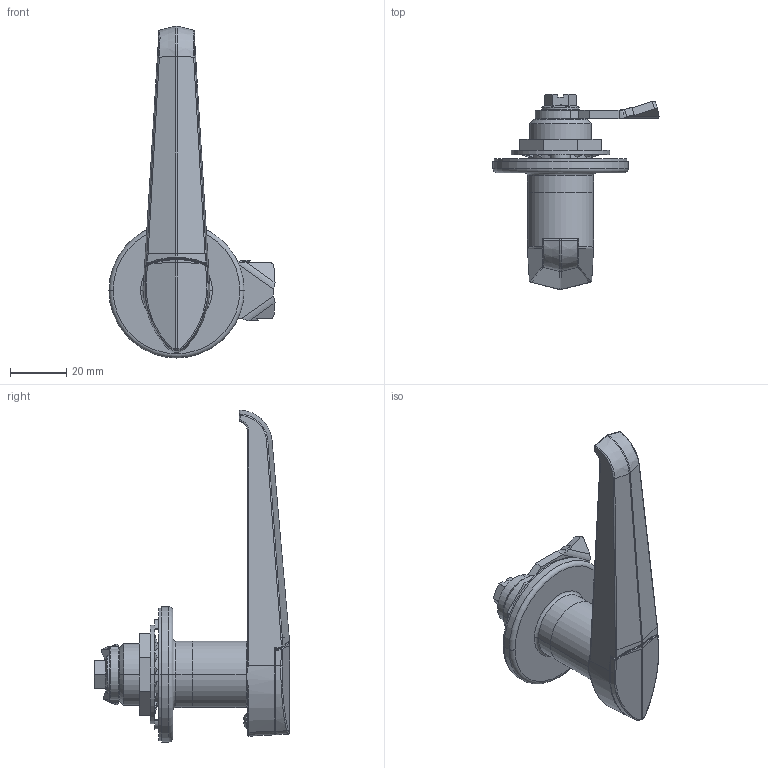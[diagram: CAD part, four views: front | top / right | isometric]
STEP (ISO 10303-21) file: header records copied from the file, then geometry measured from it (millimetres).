
FILE_DESCRIPTION((''),'2;1');
FILE_NAME('3SJ_MS317_0003_ASM','2016-07-13T',('Administrator'),(''),'PRO/ENGINEER BY PARAMETRIC TECHNOLOGY CORPORATION, 2009060','PRO/ENGINEER BY PARAMETRIC TECHNOLOGY CORPORATION, 2009060','');
FILE_SCHEMA(('CONFIG_CONTROL_DESIGN'));
Length unit declared in the file: millimetre
Products named in the file (19): 8SJ_MS317_0020; 8SJ_MS317_0011; 8SJ_MS307_0712; D3_GB_T_95-2002; M3X8_GB_T_818-2000; D17X2_65_GB_T_3452_1-2005; 8SJ_MS317_0510; 8SJ_MS317_0530; 8SJ_MS304_0760; S1B4500; M6X8; 8SJ_L2D0050_0040; 8SJ_L2D0050_0711; 8SJ_L2D0050_0280; 8SJ_L2D0057_0250; 5SJ_L2D0057_0060_INST_ASM; 8SJ_MS317_0200; 8SJ-MS807-0512; 3SJ_MS317_0003_ASM
Assembly tree (18 placements, depth 3):
  3SJ_MS317_0003_ASM
    8SJ_MS317_0020
    8SJ_MS317_0011
    8SJ_MS307_0712
    D3_GB_T_95-2002
    M3X8_GB_T_818-2000
    D17X2_65_GB_T_3452_1-2005
    8SJ_MS317_0510
    8SJ_MS317_0530
    8SJ_MS304_0760
    S1B4500
    M6X8
    5SJ_L2D0057_0060_INST_ASM
      8SJ_L2D0050_0040
      8SJ_L2D0050_0711
      8SJ_L2D0050_0280
      8SJ_L2D0057_0250
    8SJ_MS317_0200
    8SJ-MS807-0512
Bounding box: 59 x 69.37 x 117.94 mm (x, y, z)
Volume: 41491 mm3; surface area: 31478 mm2
Topology: 18 solids, 18 shells, 1308 faces, 3232 edges, 2017 vertices
Faces by surface type: plane 605, bspline 287, cylinder 284, sphere 54, torus 49, cone 29
Entity records: 64475 total; most frequent: CARTESIAN_POINT 35616, ORIENTED_EDGE 6464, DIRECTION 5061, EDGE_CURVE 3232, VERTEX_POINT 2017, AXIS2_PLACEMENT_3D 1762, VECTOR 1537, LINE 1537
